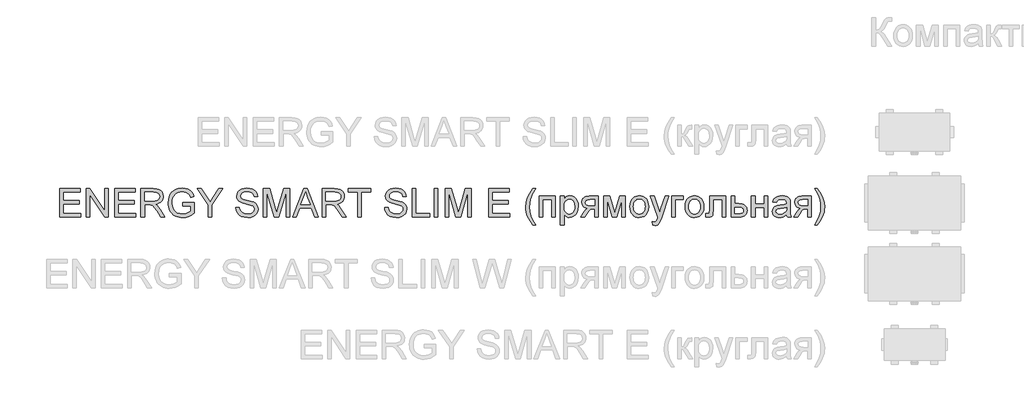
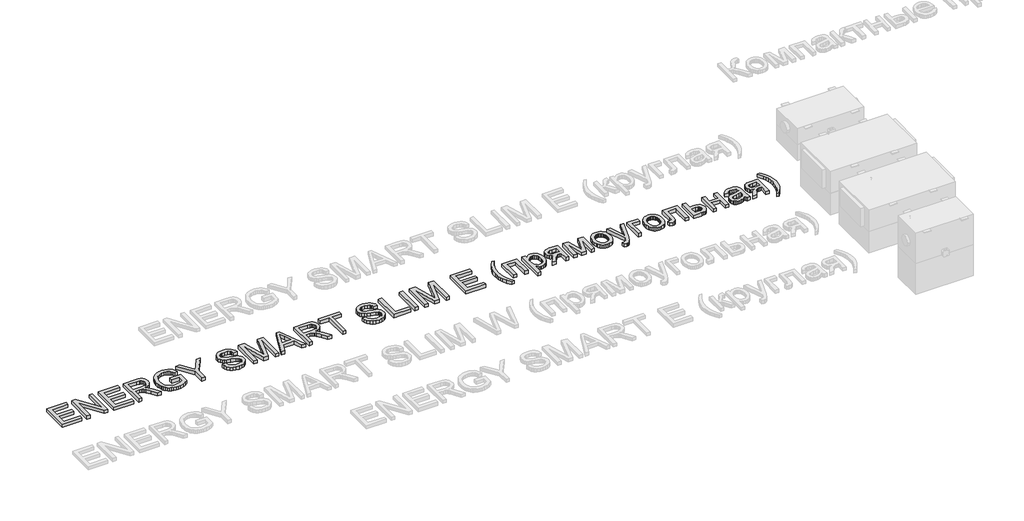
# One storey, part 26 of 28: 1 proxy.
"""IFC4 building model written with IfcOpenShell, lengths in millimetres."""

from ifc_helpers import new_model, si_unit, origin, origin_with_axes, place, context, project, spatial, polyline, outline, extrude, element, save

model = new_model("IFC4")

# Units and contexts
model_context = context("Model", 3, world=origin())
ifc_project = project(units=[si_unit("LENGTHUNIT", "METRE", prefix="MILLI")], contexts=[model_context])

# Site, building, storey
site = spatial("IfcSite", under=ifc_project)
building = spatial("IfcBuilding", under=site)
storey = spatial("IfcBuildingStorey", under=building, Name="Уровень 1", Elevation=0.0)

# Proxy
placement = place(None, origin())
element("IfcBuildingElementProxy", 1, Name="400 мм Arial", ObjectType="400 мм Arial", at=placement, inside=storey, context=model_context, shape_type="SweptSolid", body=[
    extrude(outline(polyline([(-32727.6543739, 21271.3067858), (-32727.6543739, 21673.1320263), (-32438.8424822, 21673.1320263), (-32438.8424822, 21622.9038713), (-32677.4262189, 21622.9038713), (-32677.4262189, 21503.612003), (-32451.399521, 21503.612003), (-32451.399521, 21453.3838479), (-32677.4262189, 21453.3838479), (-32677.4262189, 21321.5349408), (-32432.5639629, 21321.5349408), (-32432.5639629, 21271.3067858), (-32727.6543739, 21271.3067858)])), origin_with_axes(), (0.0, 0.0, 1.0), 50.0),
    extrude(outline(polyline([(-32357.2217303, 21271.3067858), (-32357.2217303, 21673.1320263), (-32303.461908, 21673.1320263), (-32093.5239161, 21354.7914732), (-32093.5239161, 21673.1320263), (-32043.295761, 21673.1320263), (-32043.295761, 21271.3067858), (-32097.0555833, 21271.3067858), (-32306.9935752, 21589.7454408), (-32306.9935752, 21271.3067858), (-32357.2217303, 21271.3067858)])), origin_with_axes(), (0.0, 0.0, 1.0), 50.0),
    extrude(outline(polyline([(-31955.3964897, 21271.3067858), (-31955.3964897, 21673.1320263), (-31666.584598, 21673.1320263), (-31666.584598, 21622.9038713), (-31905.1683346, 21622.9038713), (-31905.1683346, 21503.612003), (-31679.1416367, 21503.612003), (-31679.1416367, 21453.3838479), (-31905.1683346, 21453.3838479), (-31905.1683346, 21321.5349408), (-31660.3060786, 21321.5349408), (-31660.3060786, 21271.3067858), (-31955.3964897, 21271.3067858)])), origin_with_axes(), (0.0, 0.0, 1.0), 50.0),
    extrude(outline(polyline([(-31584.963846, 21271.3067858), (-31584.963846, 21673.1320263), (-31411.8140536, 21673.1320263), (-31365.2769812, 21670.4219623), (-31331.4195749, 21662.2917702), (-31306.6733794, 21647.2821848), (-31287.4699392, 21623.9339409), (-31275.1458924, 21594.9816278), (-31271.0378768, 21563.1598353), (-31272.739331, 21542.5216553), (-31277.8436937, 21523.5757326), (-31286.3509648, 21506.322067), (-31298.2611444, 21490.7606586), (-31313.7275166, 21477.3881481), (-31332.9033656, 21466.7011761), (-31355.7886914, 21458.6997427), (-31382.383494, 21453.3838479), (-31353.8358511, 21431.8995394), (-31313.123577, 21380.1998563), (-31246.120003, 21271.3067858), (-31304.4906129, 21271.3067858), (-31356.7789071, 21354.5952695), (-31394.5481253, 21409.7285178), (-31408.5889548, 21425.804961), (-31421.0846799, 21435.7745631), (-31444.9724841, 21445.3394949), (-31474.1087381, 21447.1053285), (-31534.7356909, 21447.1053285), (-31534.7356909, 21271.3067858), (-31584.963846, 21271.3067858)]), holes=[polyline([(-31534.7356909, 21497.3334836), (-31422.3109532, 21497.3334836), (-31390.0231767, 21499.1115799), (-31364.9704129, 21504.4458688), (-31346.1103292, 21513.6919696), (-31332.4005936, 21527.2055016), (-31324.0496723, 21543.5517249), (-31321.2660318, 21561.2958998), (-31326.5757953, 21585.7968407), (-31342.5050857, 21605.5398411), (-31354.6666513, 21613.1366043), (-31369.9122943, 21618.5628637), (-31409.6558125, 21622.9038713), (-31534.7356909, 21622.9038713), (-31534.7356909, 21497.3334836)])]), origin_with_axes(), (0.0, 0.0, 1.0), 50.0),
    extrude(outline(polyline([(-30994.7830238, 21428.2697704), (-30994.7830238, 21478.4979254), (-30831.5415199, 21478.4979254), (-30831.5415199, 21328.3039695), (-30871.2114617, 21300.7128199), (-30912.1322023, 21280.9207686), (-30954.2056398, 21269.0013919), (-30997.3336723, 21265.0282664), (-31026.1848178, 21266.6070933), (-31053.6809313, 21271.343574), (-31079.8220127, 21279.2377084), (-31104.6080621, 21290.2894967), (-31127.2389362, 21304.3333919), (-31146.9144916, 21321.203847), (-31163.6347283, 21340.9008622), (-31177.3996463, 21363.4244373), (-31188.1509976, 21388.0541369), (-31195.8305342, 21414.0695253), (-31200.4382562, 21441.4706026), (-31201.9741635, 21470.2573687), (-31195.8550597, 21526.8498823), (-31188.2061799, 21553.6654141), (-31177.4977481, 21579.4937958), (-31163.9198368, 21603.2007247), (-31147.6625183, 21623.651898), (-31128.7257926, 21640.8473156), (-31107.1096597, 21654.7869775), (-31083.2831692, 21665.5597886), (-31057.7153705, 21673.2546537), (-31030.4062637, 21677.8715727), (-31001.3558488, 21679.4105457), (-30959.9813871, 21675.8420904), (-30922.7762547, 21665.1367243), (-30891.4449714, 21648.0669997), (-30867.6920572, 21625.4054688), (-30850.1195606, 21596.0607484), (-30837.3295299, 21558.941455), (-30883.6336104, 21545.893907), (-30893.9710944, 21572.3691479), (-30906.5403959, 21592.3451402), (-30923.1686621, 21607.4037765), (-30945.6830402, 21619.1269495), (-30972.5261631, 21626.6685304), (-31002.1406638, 21629.1823907), (-31036.8074104, 21626.4723266), (-31066.4464365, 21618.3421345), (-31090.9473774, 21605.8096212), (-31110.1998685, 21589.8925936), (-31124.9764619, 21571.4126547), (-31136.04971, 21551.1914077), (-31147.8219338, 21513.2750367), (-31151.7460085, 21472.3175079), (-31147.0248562, 21424.2843821), (-31132.8613994, 21384.7615931), (-31109.6848337, 21354.0311837), (-31077.9243548, 21332.375197), (-31040.7560105, 21319.5361153), (-31001.3558488, 21315.2564214), (-30966.5664748, 21318.4815203), (-30932.6354921, 21328.1568167), (-30903.1681443, 21341.4864077), (-30881.7696749, 21355.67439), (-30881.7696749, 21428.2697704), (-30994.7830238, 21428.2697704)])), origin_with_axes(), (0.0, 0.0, 1.0), 50.0),
    extrude(outline(polyline([(-30636.9074189, 21271.3067858), (-30636.9074189, 21441.5135222), (-30793.8704035, 21673.1320263), (-30734.6168769, 21673.1320263), (-30650.8378838, 21549.4255741), (-30607.9673687, 21486.3460747), (-30564.9987516, 21553.9382599), (-30488.9698059, 21673.1320263), (-30429.7162793, 21673.1320263), (-30586.6792639, 21441.5135222), (-30586.6792639, 21271.3067858), (-30636.9074189, 21271.3067858)])), origin_with_axes(), (0.0, 0.0, 1.0), 50.0),
    extrude(outline(polyline([(-30247.6392171, 21409.4342122), (-30197.411062, 21409.4342122), (-30191.6475774, 21381.5610197), (-30181.2242542, 21359.1570062), (-30164.9638701, 21341.3760431), (-30141.6892025, 21327.3720018), (-30113.2396615, 21318.2853165), (-30081.4546572, 21315.2564214), (-30053.4711001, 21317.5495525), (-30028.9701592, 21324.4289459), (-30009.1167942, 21335.3182529), (-29995.0759647, 21349.6411253), (-29986.7250434, 21366.0854504), (-29983.941403, 21383.339116), (-29986.0260676, 21400.1513232), (-29992.2800615, 21414.682662), (-30004.9842531, 21427.0802852), (-30026.4195107, 21437.4913457), (-30099.5544513, 21456.6702604), (-30147.5630517, 21469.3621892), (-30178.2811983, 21481.4409814), (-30203.2849112, 21498.3390277), (-30221.0045607, 21518.8177921), (-30231.5627739, 21542.4358162), (-30235.0821783, 21568.7516416), (-30230.7289081, 21598.1699385), (-30217.6690972, 21625.6016726), (-30196.2461024, 21648.8518147), (-30166.80328, 21665.7253355), (-30131.462083, 21675.9892432), (-30092.3439642, 21679.4105457), (-30049.9639584, 21675.8298276), (-30012.8814533, 21665.0876734), (-29982.4208241, 21647.4048122), (-29959.9064459, 21623.0019731), (-29945.65715, 21593.3997353), (-29939.9917673, 21560.1186774), (-29990.2199224, 21560.1186774), (-29999.4414977, 21590.0887973), (-30007.8046817, 21601.9468603), (-30018.6694633, 21611.7202586), (-30048.7131596, 21624.8168576), (-30090.3819269, 21629.1823907), (-30133.0317129, 21624.8659086), (-30149.3350166, 21619.470306), (-30162.2905942, 21611.9164624), (-30179.213166, 21592.860175), (-30184.8540233, 21570.2231696), (-30180.8563723, 21550.9216276), (-30168.8634192, 21535.3970074), (-30140.5119801, 21521.5155934), (-30086.8502598, 21507.3398739), (-30031.4717567, 21493.8753928), (-29997.9699697, 21482.1276945), (-29969.3364878, 21463.905273), (-29949.3604954, 21441.4154203), (-29937.6250598, 21414.9033912), (-29933.7132479, 21384.6144403), (-29938.213671, 21353.651039), (-29951.7149402, 21324.5270477), (-29973.6652326, 21299.4620211), (-30003.5127251, 21280.6755139), (-30039.4057451, 21268.9400782), (-30079.4926198, 21265.0282664), (-30128.7029681, 21269.2466466), (-30169.2067757, 21281.9017872), (-30201.4700267, 21303.0427392), (-30225.9587049, 21332.7185535), (-30241.6795288, 21368.8690909), (-30247.6392171, 21409.4342122)])), origin_with_axes(), (0.0, 0.0, 1.0), 50.0),
    extrude(outline(polyline([(-29858.3710153, 21271.3067858), (-29858.3710153, 21673.1320263), (-29771.9432719, 21673.1320263), (-29689.7339087, 21389.911941), (-29673.1546934, 21330.7565162), (-29655.2020521, 21394.8170343), (-29574.366115, 21673.1320263), (-29487.9383716, 21673.1320263), (-29487.9383716, 21271.3067858), (-29538.1665267, 21271.3067858), (-29538.1665267, 21622.9038713), (-29639.1133462, 21271.3067858), (-29707.1960407, 21271.3067858), (-29808.1428602, 21622.9038713), (-29808.1428602, 21271.3067858), (-29858.3710153, 21271.3067858)])), origin_with_axes(), (0.0, 0.0, 1.0), 50.0),
    extrude(outline(polyline([(-29446.83369, 21271.3067858), (-29286.4371401, 21673.1320263), (-29243.6647268, 21673.1320263), (-29083.2681769, 21271.3067858), (-29136.3412861, 21271.3067858), (-29182.3510609, 21396.8771734), (-29347.8489078, 21396.8771734), (-29393.7605808, 21271.3067858), (-29446.83369, 21271.3067858)]), holes=[polyline([(-29329.4057571, 21447.1053285), (-29200.6961098, 21447.1053285), (-29236.8956981, 21545.893907), (-29265.0509335, 21622.9038713), (-29290.0669091, 21554.5268711), (-29329.4057571, 21447.1053285)])]), origin_with_axes(), (0.0, 0.0, 1.0), 50.0),
    extrude(outline(polyline([(-29029.6064565, 21271.3067858), (-29029.6064565, 21673.1320263), (-28856.4566641, 21673.1320263), (-28809.9195918, 21670.4219623), (-28776.0621855, 21662.2917702), (-28751.3159899, 21647.2821848), (-28732.1125498, 21623.9339409), (-28719.7885029, 21594.9816278), (-28715.6804873, 21563.1598353), (-28717.3819416, 21542.5216553), (-28722.4863042, 21523.5757326), (-28730.9935754, 21506.322067), (-28742.903755, 21490.7606586), (-28758.3701272, 21477.3881481), (-28777.5459762, 21466.7011761), (-28800.431302, 21458.6997427), (-28827.0261045, 21453.3838479), (-28798.4784617, 21431.8995394), (-28757.7661876, 21380.1998563), (-28690.7626135, 21271.3067858), (-28749.1332234, 21271.3067858), (-28801.4215177, 21354.5952695), (-28839.1907358, 21409.7285178), (-28853.2315653, 21425.804961), (-28865.7272904, 21435.7745631), (-28889.6150946, 21445.3394949), (-28918.7513487, 21447.1053285), (-28979.3783015, 21447.1053285), (-28979.3783015, 21271.3067858), (-29029.6064565, 21271.3067858)]), holes=[polyline([(-28979.3783015, 21497.3334836), (-28866.9535637, 21497.3334836), (-28834.6657873, 21499.1115799), (-28809.6130234, 21504.4458688), (-28790.7529398, 21513.6919696), (-28777.0432041, 21527.2055016), (-28768.6922828, 21543.5517249), (-28765.9086424, 21561.2958998), (-28771.2184059, 21585.7968407), (-28787.1476963, 21605.5398411), (-28799.3092619, 21613.1366043), (-28814.5549049, 21618.5628637), (-28854.2984231, 21622.9038713), (-28979.3783015, 21622.9038713), (-28979.3783015, 21497.3334836)])]), origin_with_axes(), (0.0, 0.0, 1.0), 50.0),
    extrude(outline(polyline([(-28527.3249058, 21271.3067858), (-28527.3249058, 21622.9038713), (-28659.1738129, 21622.9038713), (-28659.1738129, 21673.1320263), (-28345.2478437, 21673.1320263), (-28345.2478437, 21622.9038713), (-28477.0967507, 21622.9038713), (-28477.0967507, 21271.3067858), (-28527.3249058, 21271.3067858)])), origin_with_axes(), (0.0, 0.0, 1.0), 50.0),
    extrude(outline(polyline([(-28150.6137427, 21409.4342122), (-28100.3855877, 21409.4342122), (-28094.6221031, 21381.5610197), (-28084.1987799, 21359.1570062), (-28067.9383957, 21341.3760431), (-28044.6637281, 21327.3720018), (-28016.2141872, 21318.2853165), (-27984.4291828, 21315.2564214), (-27956.4456257, 21317.5495525), (-27931.9446848, 21324.4289459), (-27912.0913198, 21335.3182529), (-27898.0504903, 21349.6411253), (-27889.699569, 21366.0854504), (-27886.9159286, 21383.339116), (-27889.0005932, 21400.1513232), (-27895.2545872, 21414.682662), (-27907.9587787, 21427.0802852), (-27929.3940363, 21437.4913457), (-28002.5289769, 21456.6702604), (-28050.5375773, 21469.3621892), (-28081.2557239, 21481.4409814), (-28106.2594369, 21498.3390277), (-28123.9790863, 21518.8177921), (-28134.5372995, 21542.4358162), (-28138.056704, 21568.7516416), (-28133.7034337, 21598.1699385), (-28120.6436229, 21625.6016726), (-28099.220628, 21648.8518147), (-28069.7778057, 21665.7253355), (-28034.4366087, 21675.9892432), (-27995.3184898, 21679.4105457), (-27952.938484, 21675.8298276), (-27915.8559789, 21665.0876734), (-27885.3953497, 21647.4048122), (-27862.8809716, 21623.0019731), (-27848.6316756, 21593.3997353), (-27842.9662929, 21560.1186774), (-27893.194448, 21560.1186774), (-27902.4160233, 21590.0887973), (-27910.7792073, 21601.9468603), (-27921.6439889, 21611.7202586), (-27951.6876852, 21624.8168576), (-27993.3564525, 21629.1823907), (-28036.0062385, 21624.8659086), (-28052.3095423, 21619.470306), (-28065.2651199, 21611.9164624), (-28082.1876916, 21592.860175), (-28087.8285489, 21570.2231696), (-28083.8308979, 21550.9216276), (-28071.8379448, 21535.3970074), (-28043.4865057, 21521.5155934), (-27989.8247854, 21507.3398739), (-27934.4462824, 21493.8753928), (-27900.9444953, 21482.1276945), (-27872.3110134, 21463.905273), (-27852.335021, 21441.4154203), (-27840.5995854, 21414.9033912), (-27836.6877735, 21384.6144403), (-27841.1881966, 21353.651039), (-27854.6894658, 21324.5270477), (-27876.6397582, 21299.4620211), (-27906.4872507, 21280.6755139), (-27942.3802707, 21268.9400782), (-27982.4671455, 21265.0282664), (-28031.6774937, 21269.2466466), (-28072.1813014, 21281.9017872), (-28104.4445523, 21303.0427392), (-28128.9332305, 21332.7185535), (-28144.6540544, 21368.8690909), (-28150.6137427, 21409.4342122)])), origin_with_axes(), (0.0, 0.0, 1.0), 50.0),
    extrude(outline(polyline([(-27761.3455409, 21271.3067858), (-27761.3455409, 21673.1320263), (-27711.1173858, 21673.1320263), (-27711.1173858, 21321.5349408), (-27510.2047655, 21321.5349408), (-27510.2047655, 21271.3067858), (-27761.3455409, 21271.3067858)])), origin_with_axes(), (0.0, 0.0, 1.0), 50.0),
    extrude(outline(polyline([(-27447.4195717, 21271.3067858), (-27447.4195717, 21673.1320263), (-27397.1914166, 21673.1320263), (-27397.1914166, 21271.3067858), (-27447.4195717, 21271.3067858)])), origin_with_axes(), (0.0, 0.0, 1.0), 50.0),
    extrude(outline(polyline([(-27296.7351065, 21271.3067858), (-27296.7351065, 21673.1320263), (-27210.3073631, 21673.1320263), (-27128.0979999, 21389.911941), (-27111.5187846, 21330.7565162), (-27093.5661433, 21394.8170343), (-27012.7302062, 21673.1320263), (-26926.3024628, 21673.1320263), (-26926.3024628, 21271.3067858), (-26976.5306179, 21271.3067858), (-26976.5306179, 21622.9038713), (-27077.4774373, 21271.3067858), (-27145.5601319, 21271.3067858), (-27246.5069514, 21622.9038713), (-27246.5069514, 21271.3067858), (-27296.7351065, 21271.3067858)])), origin_with_axes(), (0.0, 0.0, 1.0), 50.0),
    extrude(outline(polyline([(-26681.4402068, 21271.3067858), (-26681.4402068, 21673.1320263), (-26392.6283151, 21673.1320263), (-26392.6283151, 21622.9038713), (-26631.2120517, 21622.9038713), (-26631.2120517, 21503.612003), (-26405.1853539, 21503.612003), (-26405.1853539, 21453.3838479), (-26631.2120517, 21453.3838479), (-26631.2120517, 21321.5349408), (-26386.3497957, 21321.5349408), (-26386.3497957, 21271.3067858), (-26681.4402068, 21271.3067858)])), origin_with_axes(), (0.0, 0.0, 1.0), 50.0),
    extrude(outline(polyline([(-26059.8667877, 21158.2934368), (-26098.7887028, 21212.9116504), (-26131.1868439, 21276.1137772), (-26143.933955, 21310.1673872), (-26153.0390344, 21344.8341339), (-26158.502082, 21380.1140172), (-26160.3230979, 21416.0070372), (-26154.8784444, 21478.424349), (-26138.5444838, 21538.1438596), (-26106.1218173, 21605.7850958), (-26059.8667877, 21673.1320263), (-26022.1956714, 21673.1320263), (-26069.186465, 21593.5714135), (-26085.2261199, 21555.8021954), (-26097.4398022, 21516.4633473), (-26106.9311577, 21466.2106668), (-26110.0949428, 21415.7127316), (-26104.6012384, 21351.3211197), (-26088.120125, 21286.9540333), (-26060.6516027, 21222.6114723), (-26022.1956714, 21158.2934368), (-26059.8667877, 21158.2934368)])), origin_with_axes(), (0.0, 0.0, 1.0), 50.0),
    extrude(outline(polyline([(-25971.9675164, 21566.3971968), (-25745.9408185, 21566.3971968), (-25745.9408185, 21271.3067858), (-25796.1689736, 21271.3067858), (-25796.1689736, 21516.1690417), (-25921.7393613, 21516.1690417), (-25921.7393613, 21271.3067858), (-25971.9675164, 21271.3067858), (-25971.9675164, 21566.3971968)])), origin_with_axes(), (0.0, 0.0, 1.0), 50.0),
    extrude(outline(polyline([(-25670.5985859, 21158.2934368), (-25670.5985859, 21566.3971968), (-25620.3704308, 21566.3971968), (-25620.3704308, 21517.1500604), (-25603.9874193, 21541.4425348), (-25585.6423705, 21558.7943022), (-25564.2561638, 21569.2053627), (-25538.7496788, 21572.6757162), (-25504.781908, 21567.8196739), (-25475.0815682, 21553.2515469), (-25450.8994584, 21529.854252), (-25433.4863773, 21498.510706), (-25422.9649522, 21461.5017773), (-25419.4578105, 21421.1083342), (-25423.4186734, 21378.1519799), (-25435.3012618, 21339.7328369), (-25454.7254311, 21307.8006797), (-25481.3110367, 21284.3052829), (-25512.2744379, 21269.8475205), (-25544.8319945, 21265.0282664), (-25567.9227211, 21268.2533652), (-25588.5363755, 21277.9286617), (-25606.1824486, 21292.5335769), (-25620.3704308, 21310.5475319), (-25620.3704308, 21158.2934368), (-25670.5985859, 21158.2934368)]), holes=[polyline([(-25620.3704308, 21416.4975465), (-25614.93804, 21371.4687903), (-25608.1475516, 21354.0311837), (-25598.6408677, 21339.9780915), (-25574.5936479, 21321.436839), (-25560.8317956, 21316.8015258), (-25545.911115, 21315.2564214), (-25530.7758366, 21316.8567081), (-25516.7625983, 21321.6575682), (-25503.8714, 21329.6590016), (-25492.1022419, 21340.8610083), (-25482.295121, 21355.4230039), (-25475.2900347, 21373.504404), (-25471.0869829, 21395.1052085), (-25469.6859656, 21420.2254174), (-25475.1551446, 21465.0089189), (-25481.9916184, 21482.5814156), (-25491.5626816, 21496.9410761), (-25515.5731132, 21516.0709399), (-25529.1786156, 21520.8534058), (-25543.8509758, 21522.4475611), (-25558.4773508, 21520.7522383), (-25572.2392031, 21515.6662697), (-25597.1693397, 21495.3223953), (-25607.3198171, 21480.2239051), (-25614.5701581, 21462.0536003), (-25618.9203626, 21440.8114807), (-25620.3704308, 21416.4975465)])]), origin_with_axes(), (0.0, 0.0, 1.0), 50.0),
    extrude(outline(polyline([(-25136.9244382, 21566.3971968), (-25136.9244382, 21271.3067858), (-25187.1525933, 21271.3067858), (-25187.1525933, 21384.3201347), (-25214.5230138, 21384.3201347), (-25236.3506788, 21382.7259794), (-25251.8017226, 21377.9435134), (-25266.6886807, 21364.037574), (-25286.8240885, 21335.0729982), (-25326.8496496, 21271.3067858), (-25384.9259539, 21271.3067858), (-25334.5015951, 21351.9465191), (-25312.2324717, 21380.8865694), (-25291.7291818, 21393.7379137), (-25326.0648347, 21404.2593388), (-25339.4066884, 21413.0701126), (-25350.1978936, 21424.2475939), (-25364.471715, 21450.8331994), (-25369.2296555, 21481.1466758), (-25367.6048433, 21499.2342072), (-25362.7304069, 21515.5313796), (-25354.6063462, 21530.038193), (-25343.2326611, 21542.7546473), (-25328.7810301, 21553.0982627), (-25311.4231313, 21560.4865594), (-25291.1589647, 21564.9195375), (-25267.9885304, 21566.3971968), (-25136.9244382, 21566.3971968)]), holes=[polyline([(-25187.1525933, 21516.1690417), (-25253.3713525, 21516.1690417), (-25287.5721153, 21513.262774), (-25306.9840219, 21504.5439707), (-25315.9971308, 21491.9256183), (-25319.0015004, 21477.3207031), (-25314.5746537, 21458.1785766), (-25301.2941137, 21444.8980365), (-25276.7563846, 21437.1357264), (-25238.5579708, 21434.5482897), (-25187.1525933, 21434.5482897), (-25187.1525933, 21516.1690417)])]), origin_with_axes(), (0.0, 0.0, 1.0), 50.0),
    extrude(outline(polyline([(-25061.5822056, 21566.3971968), (-24975.1544622, 21566.3971968), (-24908.5432956, 21330.167905), (-24836.7327302, 21566.3971968), (-24753.9347558, 21566.3971968), (-24753.9347558, 21271.3067858), (-24804.1629109, 21271.3067858), (-24804.1629109, 21508.9095037), (-24876.3658838, 21271.3067858), (-24942.2903373, 21271.3067858), (-25011.3540506, 21520.2893201), (-25011.3540506, 21271.3067858), (-25061.5822056, 21271.3067858), (-25061.5822056, 21566.3971968)])), origin_with_axes(), (0.0, 0.0, 1.0), 50.0),
    extrude(outline(polyline([(-24691.149562, 21418.8519913), (-24688.4333666, 21457.0687992), (-24680.2847804, 21490.0003692), (-24666.7038034, 21517.6467011), (-24647.6904356, 21540.007795), (-24628.5483091, 21554.3000105), (-24607.4196199, 21564.5087359), (-24584.3043678, 21570.6339711), (-24559.202553, 21572.6757162), (-24531.4918417, 21570.189447), (-24506.4360122, 21562.7306396), (-24484.0350644, 21550.2992938), (-24464.2889983, 21532.8954098), (-24448.1727012, 21511.1075986), (-24436.6610604, 21485.5244715), (-24429.754076, 21456.1460285), (-24427.4517478, 21422.9722696), (-24431.5229752, 21372.2290798), (-24443.7366575, 21333.6014703), (-24463.7371753, 21304.6736827), (-24491.1689094, 21283.0299587), (-24523.7509914, 21269.5286894), (-24559.202553, 21265.0282664), (-24587.3179345, 21267.5053385), (-24612.606756, 21274.9365548), (-24635.0690175, 21287.3219153), (-24654.704719, 21304.66142), (-24670.6493378, 21326.6607633), (-24682.0383512, 21353.0256396), (-24688.8717593, 21383.7560489), (-24691.149562, 21418.8519913)]), holes=[polyline([(-24640.9214069, 21418.9500931), (-24639.468273, 21394.587108), (-24635.1088714, 21373.4921413), (-24627.843202, 21355.6651929), (-24617.6712648, 21341.106263), (-24605.298167, 21329.7969573), (-24591.4290158, 21321.7188818), (-24576.0638111, 21316.8720365), (-24559.202553, 21315.2564214), (-24542.427134, 21316.8812336), (-24527.123243, 21321.75567), (-24513.29088, 21329.8797308), (-24500.930045, 21341.2534158), (-24490.7581078, 21355.9564328), (-24483.4924384, 21374.0684897), (-24479.1330368, 21395.5895865), (-24477.6799029, 21420.519723), (-24479.1422338, 21444.1101559), (-24483.5292266, 21464.6532997), (-24490.8408813, 21482.1491542), (-24501.0771978, 21496.5977196), (-24513.4840181, 21507.9070253), (-24527.307184, 21515.9851007), (-24542.5466957, 21520.831946), (-24559.202553, 21522.4475611), (-24576.0638111, 21520.8380774), (-24591.4290158, 21516.0096262), (-24605.298167, 21507.9622076), (-24617.6712648, 21496.6958215), (-24627.843202, 21482.1798111), (-24635.1088714, 21464.3835196), (-24639.468273, 21443.3069469), (-24640.9214069, 21418.9500931)])]), origin_with_axes(), (0.0, 0.0, 1.0), 50.0),
    extrude(outline(polyline([(-24370.9450734, 21158.2934368), (-24377.2235927, 21206.6576565), (-24351.7171077, 21202.2430725), (-24338.3016777, 21203.6287614), (-24327.8783545, 21207.7858279), (-24313.2611765, 21223.2368717), (-24299.5269154, 21260.221275), (-24295.6028407, 21272.3859063), (-24402.3376703, 21566.3971968), (-24349.362663, 21566.3971968), (-24292.7578866, 21402.5670816), (-24273.0394117, 21337.0350356), (-24253.3209368, 21394.9151361), (-24195.1465306, 21566.3971968), (-24142.5639308, 21566.3971968), (-24245.2765838, 21264.2434514), (-24271.9602912, 21198.7114054), (-24285.6209759, 21177.7911826), (-24301.0965452, 21163.296632), (-24319.073712, 21154.8353461), (-24340.2391895, 21152.0149174), (-24370.9450734, 21158.2934368)])), origin_with_axes(), (0.0, 0.0, 1.0), 50.0),
    extrude(outline(polyline([(-24100.9687398, 21566.3971968), (-23937.7272358, 21566.3971968), (-23937.7272358, 21516.1690417), (-24050.7405848, 21516.1690417), (-24050.7405848, 21271.3067858), (-24100.9687398, 21271.3067858), (-24100.9687398, 21566.3971968)])), origin_with_axes(), (0.0, 0.0, 1.0), 50.0),
    extrude(outline(polyline([(-23912.6131583, 21418.8519913), (-23909.8969629, 21457.0687992), (-23901.7483767, 21490.0003692), (-23888.1673997, 21517.6467011), (-23869.1540319, 21540.007795), (-23850.0119055, 21554.3000105), (-23828.8832162, 21564.5087359), (-23805.7679642, 21570.6339711), (-23780.6661494, 21572.6757162), (-23752.9554381, 21570.189447), (-23727.8996085, 21562.7306396), (-23705.4986607, 21550.2992938), (-23685.7525946, 21532.8954098), (-23669.6362975, 21511.1075986), (-23658.1246568, 21485.5244715), (-23651.2176723, 21456.1460285), (-23648.9153442, 21422.9722696), (-23652.9865716, 21372.2290798), (-23665.2002538, 21333.6014703), (-23685.2007716, 21304.6736827), (-23712.6325057, 21283.0299587), (-23745.2145878, 21269.5286894), (-23780.6661494, 21265.0282664), (-23808.7815308, 21267.5053385), (-23834.0703523, 21274.9365548), (-23856.5326138, 21287.3219153), (-23876.1683153, 21304.66142), (-23892.1129341, 21326.6607633), (-23903.5019476, 21353.0256396), (-23910.3353556, 21383.7560489), (-23912.6131583, 21418.8519913)]), holes=[polyline([(-23862.3850032, 21418.9500931), (-23860.9318693, 21394.587108), (-23856.5724677, 21373.4921413), (-23849.3067983, 21355.6651929), (-23839.1348611, 21341.106263), (-23826.7617634, 21329.7969573), (-23812.8926121, 21321.7188818), (-23797.5274075, 21316.8720365), (-23780.6661494, 21315.2564214), (-23763.8907304, 21316.8812336), (-23748.5868394, 21321.75567), (-23734.7544764, 21329.8797308), (-23722.3936413, 21341.2534158), (-23712.2217042, 21355.9564328), (-23704.9560348, 21374.0684897), (-23700.5966331, 21395.5895865), (-23699.1434992, 21420.519723), (-23700.6058302, 21444.1101559), (-23704.992823, 21464.6532997), (-23712.3044776, 21482.1491542), (-23722.5407941, 21496.5977196), (-23734.9476144, 21507.9070253), (-23748.7707804, 21515.9851007), (-23764.010292, 21520.831946), (-23780.6661494, 21522.4475611), (-23797.5274075, 21520.8380774), (-23812.8926121, 21516.0096262), (-23826.7617634, 21507.9622076), (-23839.1348611, 21496.6958215), (-23849.3067983, 21482.1798111), (-23856.5724677, 21464.3835196), (-23860.9318693, 21443.3069469), (-23862.3850032, 21418.9500931)])]), origin_with_axes(), (0.0, 0.0, 1.0), 50.0),
    extrude(outline(polyline([(-23567.2945922, 21566.3971968), (-23341.2678943, 21566.3971968), (-23341.2678943, 21271.6010913), (-23391.4960494, 21271.6010913), (-23391.4960494, 21516.1690417), (-23517.0664371, 21516.1690417), (-23517.0664371, 21375.3928649), (-23520.4509514, 21310.44943), (-23526.7907845, 21295.746413), (-23539.0412549, 21283.0299587), (-23557.6315584, 21274.237579), (-23582.9908906, 21271.3067858), (-23623.8012666, 21273.8574343), (-23623.8012666, 21321.5349408), (-23601.3359394, 21321.5349408), (-23578.6253576, 21324.6251496), (-23569.5509351, 21334.4353361), (-23567.2945922, 21378.237819), (-23567.2945922, 21566.3971968)])), origin_with_axes(), (0.0, 0.0, 1.0), 50.0),
    extrude(outline(polyline([(-23265.9256617, 21566.3971968), (-23215.6975066, 21566.3971968), (-23215.6975066, 21459.6623673), (-23157.8174061, 21459.6623673), (-23131.0969105, 21458.0896718), (-23107.6383019, 21453.3715852), (-23087.4415804, 21445.5081075), (-23070.5067459, 21434.4992388), (-23057.1158412, 21420.7251238), (-23047.5509094, 21404.5659071), (-23041.8119502, 21386.0215889), (-23039.8989639, 21365.0921691), (-23041.5268417, 21346.4190921), (-23046.4104752, 21329.1500981), (-23054.5498643, 21313.2851871), (-23065.9450091, 21298.824359), (-23080.920872, 21286.7854207), (-23099.8024154, 21278.1861791), (-23122.5896393, 21273.0266341), (-23149.2825438, 21271.3067858), (-23265.9256617, 21271.3067858), (-23265.9256617, 21566.3971968)]), holes=[polyline([(-23215.6975066, 21321.5349408), (-23168.804815, 21321.5349408), (-23132.4212857, 21324.1714285), (-23108.2269131, 21332.0808914), (-23094.6520675, 21345.5821606), (-23090.1271189, 21364.9940672), (-23093.4748451, 21381.4016042), (-23103.5180236, 21395.8961548), (-23112.2460239, 21401.8190549), (-23125.0391203, 21406.0496979), (-23162.8206012, 21409.4342122), (-23215.6975066, 21409.4342122), (-23215.6975066, 21321.5349408)])]), origin_with_axes(), (0.0, 0.0, 1.0), 50.0),
    extrude(outline(polyline([(-22977.11377, 21566.3971968), (-22926.885615, 21566.3971968), (-22926.885615, 21453.3838479), (-22795.0367079, 21453.3838479), (-22795.0367079, 21566.3971968), (-22744.8085528, 21566.3971968), (-22744.8085528, 21271.3067858), (-22795.0367079, 21271.3067858), (-22795.0367079, 21403.1556928), (-22926.885615, 21403.1556928), (-22926.885615, 21271.3067858), (-22977.11377, 21271.3067858), (-22977.11377, 21566.3971968)])), origin_with_axes(), (0.0, 0.0, 1.0), 50.0),
    extrude(outline(polyline([(-22481.1107387, 21308.9779021), (-22505.1089075, 21288.4010358), (-22529.8183148, 21274.9365548), (-22555.8030464, 21267.5053385), (-22583.627188, 21265.0282664), (-22605.9913476, 21266.5181884), (-22625.6025236, 21270.9879547), (-22642.4607161, 21278.4375651), (-22656.5659249, 21288.8670197), (-22667.7035523, 21301.6141308), (-22675.6590005, 21316.0167109), (-22680.4322693, 21332.07476), (-22682.023359, 21349.7882781), (-22679.6198633, 21370.610399), (-22672.4093762, 21389.5195335), (-22661.2870772, 21405.7063413), (-22647.1481458, 21418.361482), (-22630.5321424, 21427.9264138), (-22611.9786271, 21434.8425953), (-22568.5195007, 21442.396439), (-22517.1631742, 21450.3426901), (-22481.4050443, 21459.6623673), (-22481.1107387, 21470.8459799), (-22484.5688294, 21493.2622562), (-22494.9431017, 21507.928485), (-22518.1441928, 21518.8177921), (-22550.4687575, 21522.4475611), (-22580.3898264, 21520.0318027), (-22601.2855238, 21512.7845274), (-22615.5348197, 21499.38136), (-22625.5166845, 21478.4979254), (-22675.7448396, 21484.7764448), (-22667.0260363, 21512.2449671), (-22654.0152764, 21533.8273775), (-22635.4985493, 21550.3330164), (-22610.2618444, 21562.5712241), (-22579.396545, 21570.1495932), (-22543.9940344, 21572.6757162), (-22510.0385262, 21570.4438988), (-22483.1218269, 21563.7484465), (-22462.8270035, 21553.6807425), (-22448.7371231, 21541.3321702), (-22439.3929204, 21526.0650674), (-22433.3351302, 21507.241772), (-22430.8825836, 21463.2921363), (-22430.8825836, 21400.8012481), (-22428.3319351, 21313.5396388), (-22418.3255448, 21271.3067858), (-22468.5536999, 21271.3067858), (-22476.5980529, 21288.7689178), (-22481.1107387, 21308.9779021)]), holes=[polyline([(-22481.1107387, 21409.4342122), (-22514.8577804, 21401.0710282), (-22562.1428795, 21394.0322193), (-22605.3567512, 21385.8897645), (-22616.6016775, 21380.3224837), (-22624.9280733, 21372.6460127), (-22630.0784212, 21363.4489628), (-22631.7952039, 21353.3199452), (-22628.0550703, 21338.3839362), (-22616.8346694, 21326.1457285), (-22598.379256, 21317.9787482), (-22572.9340847, 21315.2564214), (-22545.9560717, 21318.2607911), (-22522.1173184, 21327.2739), (-22502.7912509, 21340.55444), (-22489.3512954, 21356.361103), (-22483.391607, 21372.6460127), (-22481.4050443, 21395.2094417), (-22481.1107387, 21409.4342122)])]), origin_with_axes(), (0.0, 0.0, 1.0), 50.0),
    extrude(outline(polyline([(-22135.7921725, 21566.3971968), (-22135.7921725, 21271.3067858), (-22186.0203276, 21271.3067858), (-22186.0203276, 21384.3201347), (-22213.390748, 21384.3201347), (-22235.2184131, 21382.7259794), (-22250.6694569, 21377.9435134), (-22265.556415, 21364.037574), (-22285.6918228, 21335.0729982), (-22325.7173839, 21271.3067858), (-22383.7936882, 21271.3067858), (-22333.3693294, 21351.9465191), (-22311.100206, 21380.8865694), (-22290.5969161, 21393.7379137), (-22324.932569, 21404.2593388), (-22338.2744227, 21413.0701126), (-22349.0656279, 21424.2475939), (-22363.3394493, 21450.8331994), (-22368.0973897, 21481.1466758), (-22366.4725776, 21499.2342072), (-22361.5981412, 21515.5313796), (-22353.4740804, 21530.038193), (-22342.1003954, 21542.7546473), (-22327.6487644, 21553.0982627), (-22310.2908656, 21560.4865594), (-22290.026699, 21564.9195375), (-22266.8562647, 21566.3971968), (-22135.7921725, 21566.3971968)]), holes=[polyline([(-22186.0203276, 21516.1690417), (-22252.2390867, 21516.1690417), (-22286.4398496, 21513.262774), (-22305.8517562, 21504.5439707), (-22314.864865, 21491.9256183), (-22317.8692347, 21477.3207031), (-22313.442388, 21458.1785766), (-22300.161848, 21444.8980365), (-22275.6241189, 21437.1357264), (-22237.4257051, 21434.5482897), (-22186.0203276, 21434.5482897), (-22186.0203276, 21516.1690417)])]), origin_with_axes(), (0.0, 0.0, 1.0), 50.0),
    extrude(outline(polyline([(-22047.8929011, 21158.2934368), (-22085.5640175, 21158.2934368), (-22047.1080862, 21222.6114723), (-22019.6395639, 21286.9540333), (-22003.1584505, 21351.3211197), (-21997.6647461, 21415.7127316), (-22000.8285312, 21465.8427848), (-22010.3198867, 21515.5804305), (-22022.3128397, 21554.992855), (-22038.2789183, 21592.7865986), (-22085.5640175, 21673.1320263), (-22047.8929011, 21673.1320263), (-22001.6378716, 21605.7850958), (-21969.2152051, 21538.1438596), (-21952.8812445, 21478.424349), (-21947.436591, 21416.0070372), (-21949.2668039, 21380.1140172), (-21954.7574427, 21344.8341339), (-21963.9085073, 21310.1673872), (-21976.7199978, 21276.1137772), (-22009.1549271, 21212.9116504), (-22047.8929011, 21158.2934368)])), origin_with_axes(), (0.0, 0.0, 1.0), 50.0),
])

save(model, "model.ifc")
